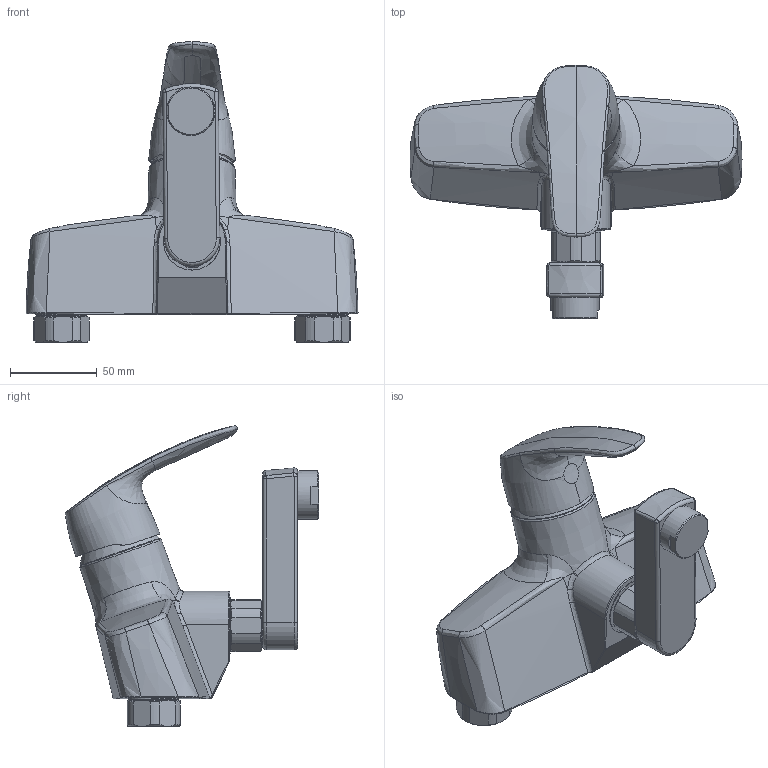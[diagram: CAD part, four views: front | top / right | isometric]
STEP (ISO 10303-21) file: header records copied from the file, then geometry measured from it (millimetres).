
FILE_DESCRIPTION (( 'STEP AP203' ), '1' );
FILE_NAME ('1016(2017).STEP', '2017-03-09T05:40:19', ( '' ), ( '' ), 'SwSTEP 2.0', 'SolidWorks 2016', '' );
FILE_SCHEMA (( 'CONFIG_CONTROL_DESIGN' ));
Length unit declared in the file: millimetre
Products named in the file (1): 1016(2017)
Bounding box: 191.05 x 145.87 x 172.92 mm (x, y, z)
Volume: 737480.8 mm3; surface area: 78878.3 mm2
Topology: 1 solids, 1 shells, 232 faces, 540 edges, 325 vertices
Faces by surface type: bspline 84, plane 53, cylinder 44, cone 42, torus 5, sphere 4
Full cylindrical faces by diameter (mm): 12.5 x2, 21.2 x2, 24 x2, 25.226 x1, 26 x2, 27.9 x1, 29 x2, 32.8 x1
Entity records: 19031 total; most frequent: CARTESIAN_POINT 14608, ORIENTED_EDGE 1000, DIRECTION 704, EDGE_CURVE 500, AXIS2_PLACEMENT_3D 317, VERTEX_POINT 311, EDGE_LOOP 273, B_SPLINE_CURVE_WITH_KNOTS 251
